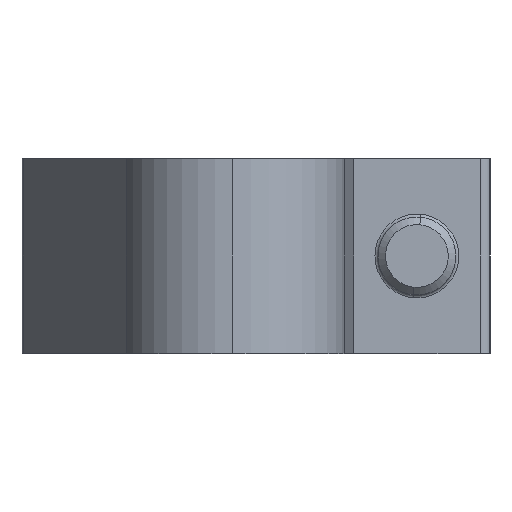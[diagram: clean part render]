
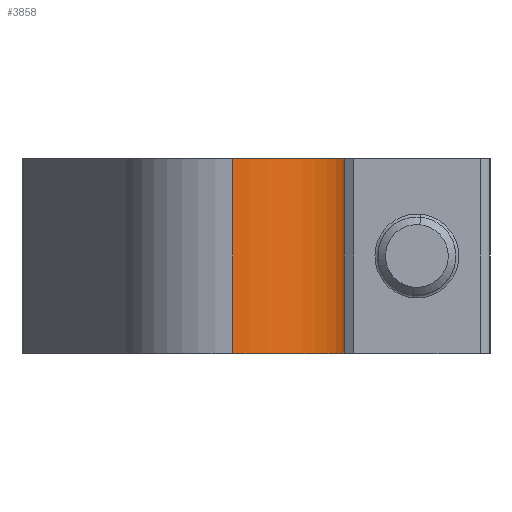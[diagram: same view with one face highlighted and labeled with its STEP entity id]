
A CAD part, left-side view. The second image highlights one B-rep face of the part: STEP entity #3858.
In plain terms, the highlighted cylindrical face has radius 5.75 mm (diameter 11.5 mm), a partial arc.
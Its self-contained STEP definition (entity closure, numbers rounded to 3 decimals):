
#191 = CARTESIAN_POINT ( 'NONE',  ( -16., 0., 10. ) ) ;
#598 = DIRECTION ( 'NONE',  ( 0., 0., -1. ) ) ;
#786 = VERTEX_POINT ( 'NONE', #10791 ) ;
#1115 = DIRECTION ( 'NONE',  ( -1., 0., 0. ) ) ;
#1436 = CARTESIAN_POINT ( 'NONE',  ( -16., 0., 0. ) ) ;
#1887 = EDGE_CURVE ( 'NONE', #4542, #9915, #2296, .T. ) ;
#2296 = CIRCLE ( 'NONE', #2325, 5.75 ) ;
#2325 = AXIS2_PLACEMENT_3D ( 'NONE', #1436, #10453, #5796 ) ;
#2431 = CARTESIAN_POINT ( 'NONE',  ( -21.75, 0., 10. ) ) ;
#3858 = ADVANCED_FACE ( 'NONE', ( #7372 ), #7110, .T. ) ;
#4174 = DIRECTION ( 'NONE',  ( 0., 0., -1. ) ) ;
#4495 = EDGE_CURVE ( 'NONE', #786, #7515, #7593, .T. ) ;
#4542 = VERTEX_POINT ( 'NONE', #4597 ) ;
#4597 = CARTESIAN_POINT ( 'NONE',  ( -21.75, 0., 0. ) ) ;
#5234 = LINE ( 'NONE', #5451, #7673 ) ;
#5451 = CARTESIAN_POINT ( 'NONE',  ( -16.422, -5.734, 10. ) ) ;
#5739 = VECTOR ( 'NONE', #4174, 1000. ) ;
#5796 = DIRECTION ( 'NONE',  ( -1., 0., 0. ) ) ;
#5870 = CARTESIAN_POINT ( 'NONE',  ( -16.422, -5.734, 10. ) ) ;
#5871 = ORIENTED_EDGE ( 'NONE', *, *, #9300, .F. ) ;
#5909 = ORIENTED_EDGE ( 'NONE', *, *, #1887, .T. ) ;
#6267 = ORIENTED_EDGE ( 'NONE', *, *, #9921, .T. ) ;
#6453 = DIRECTION ( 'NONE',  ( 0., 0., 1. ) ) ;
#6875 = CARTESIAN_POINT ( 'NONE',  ( -16.422, -5.734, 0. ) ) ;
#7110 = CYLINDRICAL_SURFACE ( 'NONE', #9617, 5.75 ) ;
#7372 = FACE_OUTER_BOUND ( 'NONE', #8338, .T. ) ;
#7515 = VERTEX_POINT ( 'NONE', #5870 ) ;
#7593 = CIRCLE ( 'NONE', #11365, 5.75 ) ;
#7673 = VECTOR ( 'NONE', #8132, 1000. ) ;
#8132 = DIRECTION ( 'NONE',  ( 0., 0., -1. ) ) ;
#8338 = EDGE_LOOP ( 'NONE', ( #10026, #6267, #5909, #5871 ) ) ;
#8636 = DIRECTION ( 'NONE',  ( -1., 0., 0. ) ) ;
#9300 = EDGE_CURVE ( 'NONE', #7515, #9915, #5234, .T. ) ;
#9617 = AXIS2_PLACEMENT_3D ( 'NONE', #11381, #598, #8636 ) ;
#9915 = VERTEX_POINT ( 'NONE', #6875 ) ;
#9921 = EDGE_CURVE ( 'NONE', #786, #4542, #10611, .T. ) ;
#10026 = ORIENTED_EDGE ( 'NONE', *, *, #4495, .F. ) ;
#10453 = DIRECTION ( 'NONE',  ( 0., 0., 1. ) ) ;
#10611 = LINE ( 'NONE', #2431, #5739 ) ;
#10791 = CARTESIAN_POINT ( 'NONE',  ( -21.75, 0., 10. ) ) ;
#11365 = AXIS2_PLACEMENT_3D ( 'NONE', #191, #6453, #1115 ) ;
#11381 = CARTESIAN_POINT ( 'NONE',  ( -16., 0., 10. ) ) ;
